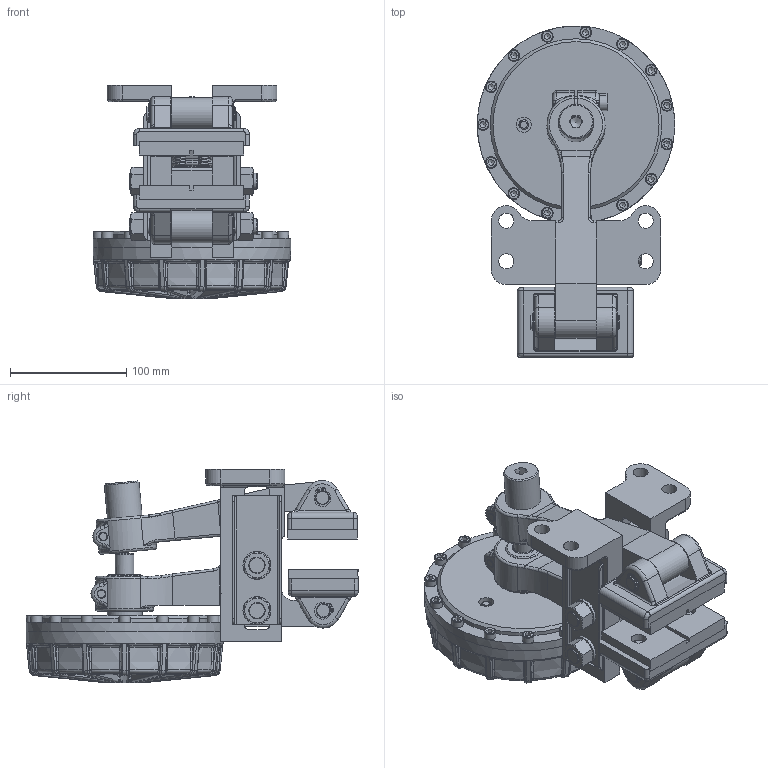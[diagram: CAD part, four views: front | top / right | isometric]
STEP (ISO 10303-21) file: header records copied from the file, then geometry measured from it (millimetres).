
FILE_DESCRIPTION(/* description */ ('','CAx-IF Rec.Pracs.---Representation and Presentation of Product Manufacturing Information (PMI)---4.0---2014-10-13'),/* implementation_level */ '2;1');
FILE_NAME(/* name */ 'X:\INVENTOR\DISEGNI\19_Pinze\STEP x Sito\PNEUM-POSITIVE\19_16_340_04 PPHP340_25,4.stp',/* time_stamp */ '2018-02-14T16:41:04+01:00',/* author */ ('stefano'),/* organization */ (''),/* preprocessor_version */ 'ST-DEVELOPER v17',/* originating_system */ 'Autodesk Inventor 2018',/* authorisation */ '');
FILE_SCHEMA (('AP242_MANAGED_MODEL_BASED_3D_ENGINEERING_MIM_LF { 1 0 10303 442 1 1 4 }'));
Products named in the file (1): 19_16_340_04 PPHP340_25,4_Substitute_2
Bounding box: 170 x 285.95 x 183.7 mm (x, y, z)
Volume: 2256067.9 mm3; surface area: 282942.9 mm2
Topology: 1 solids, 1 shells, 1934 faces, 5101 edges, 3188 vertices
Faces by surface type: plane 604, cylinder 501, bspline 495, torus 187, cone 146, sphere 1
Full cylindrical faces by diameter (mm): 1.7 x8, 5 x1, 5.4 x2, 6 x4, 6.5 x4, 8 x2, 8.5 x2, 9 x2, 9.5 x2, 10 x16, 11.5 x4, 12 x15, 13 x11, 13.5 x2, 14 x8, 14.95 x1, 16 x2, 19 x1, 22.6 x1, 30 x2, 40 x1, 120 x1, 148 x1, 170 x2
Entity records: 78861 total; most frequent: CARTESIAN_POINT 32551, ORIENTED_EDGE 10130, DIRECTION 8491, EDGE_CURVE 5065, AXIS2_PLACEMENT_3D 3473, VERTEX_POINT 3188, EDGE_LOOP 2042, FACE_OUTER_BOUND 1934
